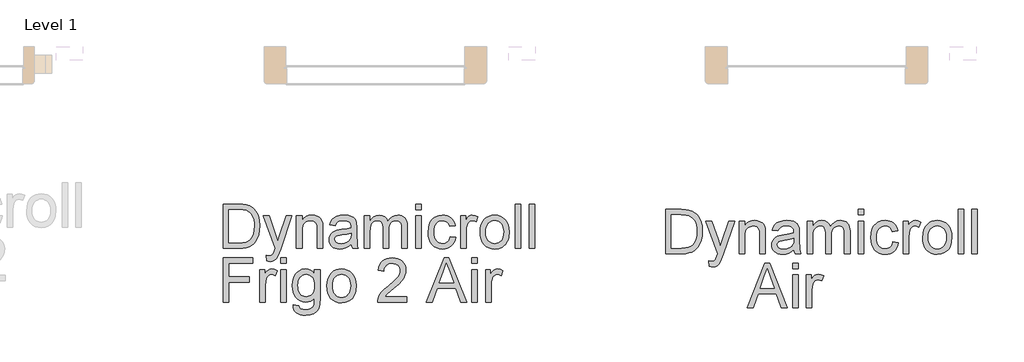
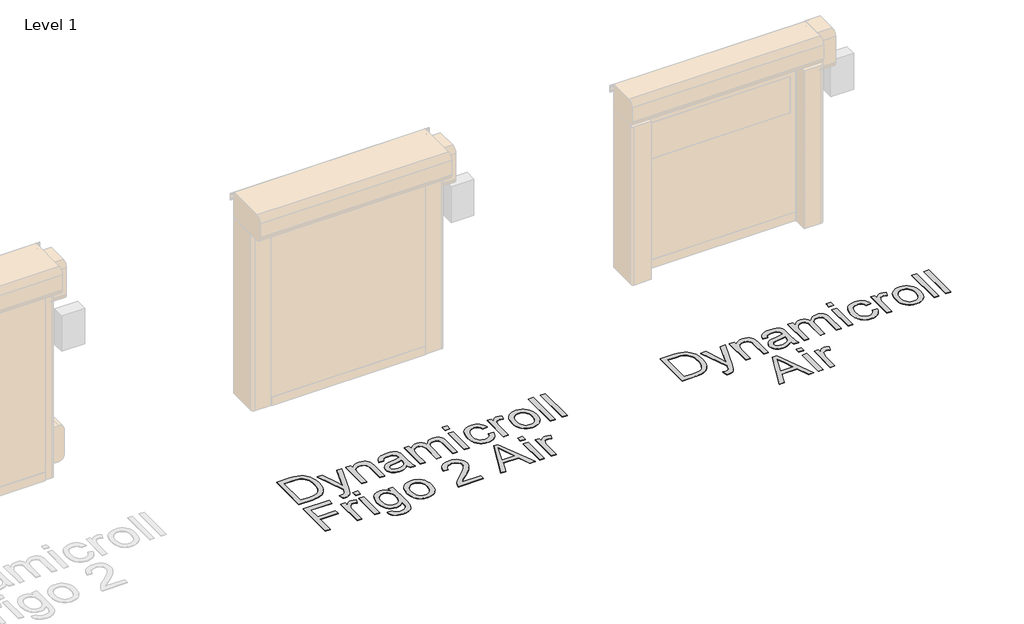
# One storey, part 5 of 17: 2 proxies.
"""IFC4 building model written with IfcOpenShell, lengths in millimetres."""

import ifcopenshell
import ifcopenshell.guid

model = None  # the IFC model being written
_history = None  # IfcOwnerHistory: only IFC2X3 demands one
_inside = {}  # id of a spatial element -> (the spatial element, [elements in it])
_under = {}  # id of a project, library or spatial element -> (it, [spatial elements below it])
_declared = {}  # id of a project -> (the project, [libraries it declares])
_typed = {}  # id of a type object -> (the type object, [elements of that type])
_made_of = {}  # id of a material, layer set ... -> (it, [elements and type objects made of it])


def new_model(schema):
    """Start an empty IFC model of exactly this schema.

    Asked for "IFC4X3", IfcOpenShell would pick the latest addendum, in which some entities
    have other attributes; the version numbers below select the first issue.
    IFC2X3 requires an IfcOwnerHistory on every rooted entity: one is made here for all.
    """
    global model, _history
    if schema == "IFC4X3":
        model = ifcopenshell.file(schema_version=(4, 3, 0, 0))
    else:
        model = ifcopenshell.file(schema=schema)
    _inside.clear()
    _under.clear()
    _declared.clear()
    _typed.clear()
    _made_of.clear()
    _history = None
    if model.schema == "IFC2X3":
        org = make("IfcOrganization", Name="unknown")
        user = make(
            "IfcPersonAndOrganization",
            ThePerson=make("IfcPerson", FamilyName="unknown"),
            TheOrganization=org,
        )
        app = make(
            "IfcApplication",
            ApplicationDeveloper=org,
            Version="unknown",
            ApplicationFullName="unknown",
            ApplicationIdentifier="unknown",
        )
        _history = make(
            "IfcOwnerHistory",
            OwningUser=user,
            OwningApplication=app,
            ChangeAction="ADDED",
            CreationDate=0,
        )
    return model


def make(cls, **values):
    """One entity of the class cls with the attributes given. An attribute that is None is left unset."""
    return model.create_entity(
        cls, **{name: value for name, value in values.items() if value is not None}
    )


def rooted(cls, **values):
    """An entity with a GlobalId (a new one), such as an element, a storey or a relation."""
    return make(cls, GlobalId=ifcopenshell.guid.new(), OwnerHistory=_history, **values)


def si_unit(unit_type, name, prefix=None):
    """IfcSIUnit, for example si_unit("LENGTHUNIT", "METRE", prefix="MILLI")."""
    return make("IfcSIUnit", UnitType=unit_type, Prefix=prefix, Name=name)


def assignment(units):
    """IfcUnitAssignment: the units of a project."""
    return None if units is None else make("IfcUnitAssignment", Units=units)


def point(xyz):
    """IfcCartesianPoint."""
    return None if xyz is None else make("IfcCartesianPoint", Coordinates=xyz)


def direction(xyz):
    """IfcDirection."""
    return None if xyz is None else make("IfcDirection", DirectionRatios=xyz)


def frame(location, z_axis=None, x_axis=None):
    """IfcAxis2Placement3D, a coordinate frame: its origin and axes. An axis left out is left unset."""
    return make(
        "IfcAxis2Placement3D",
        Location=point(location),
        Axis=direction(z_axis),
        RefDirection=direction(x_axis),
    )


def origin():
    """The frame at (0, 0, 0) with its axes left unset."""
    return frame((0.0, 0.0, 0.0))


def origin_with_axes():
    """The frame at (0, 0, 0) with the z axis (0, 0, 1) and the x axis (1, 0, 0) written out."""
    return frame((0.0, 0.0, 0.0), z_axis=(0.0, 0.0, 1.0), x_axis=(1.0, 0.0, 0.0))


def place(relative_to, where):
    """IfcLocalPlacement: puts the frame where relative to a parent placement (None: the world)."""
    return make(
        "IfcLocalPlacement", PlacementRelTo=relative_to, RelativePlacement=where
    )


def context(
    kind, dimensions, precision=None, world=None, true_north=None, identifier=None
):
    """IfcGeometricRepresentationContext, for example the 3D "Model" context."""
    return make(
        "IfcGeometricRepresentationContext",
        ContextIdentifier=identifier,
        ContextType=kind,
        CoordinateSpaceDimension=dimensions,
        Precision=precision,
        WorldCoordinateSystem=world,
        TrueNorth=true_north,
    )


def project(units=None, contexts=None):
    """IfcProject with its units and contexts."""
    return rooted(
        "IfcProject",
        Name="project",
        RepresentationContexts=contexts,
        UnitsInContext=assignment(units),
    )


def spatial(cls, under=None, at=None, **own):
    """A site, building, storey or space (cls), placed at a placement, below another one or the project."""
    s = rooted(cls, ObjectPlacement=at, **own)
    if under is not None:
        _under.setdefault(under.id(), (under, []))[1].append(s)
    return s


def polyline(points):
    """IfcPolyline through the points."""
    return make("IfcPolyline", Points=[point(p) for p in points])


def outline(outer, holes=None, kind="AREA"):
    """IfcArbitraryClosedProfileDef: a profile drawn as a closed curve; with holes, ...WithVoids."""
    if holes is None:
        return make("IfcArbitraryClosedProfileDef", ProfileType=kind, OuterCurve=outer)
    return make(
        "IfcArbitraryProfileDefWithVoids",
        ProfileType=kind,
        OuterCurve=outer,
        InnerCurves=holes,
    )


def extrude(swept, where, along, depth):
    """IfcExtrudedAreaSolid: the profile swept, set in the frame where, extruded along a direction by depth."""
    return make(
        "IfcExtrudedAreaSolid",
        SweptArea=swept,
        Position=where,
        ExtrudedDirection=direction(along),
        Depth=depth,
    )


def shape(context_of_items, identifier, shape_type, items):
    """IfcShapeRepresentation: the items that make up one representation, for example the "Body"."""
    return make(
        "IfcShapeRepresentation",
        ContextOfItems=context_of_items,
        RepresentationIdentifier=identifier,
        RepresentationType=shape_type,
        Items=items,
    )


def made_of(thing, what):
    """Note that an element or type object is made of a material, layer set ...; save() writes the relation."""
    if what is not None:
        _made_of.setdefault(what.id(), (what, []))[1].append(thing)
    return thing


def element(
    cls,
    number,
    at=None,
    inside=None,
    cuts=None,
    type_object=None,
    material=None,
    context=None,
    identifier="Body",
    shape_type=None,
    held_by="IfcProductDefinitionShape",
    body=None,
    shapes=None,
    **own,
):
    """One element of the class cls, such as IfcWall. Its Tag is "e" and its number.

    at: its placement. inside: the storey or other place that contains it. cuts: it is an
    opening in that element (IfcRelVoidsElement). A single representation is given by context,
    identifier, shape_type and body (its items); several are given by shapes. held_by: the class
    of the entity that holds the representations. save() writes the other relations.
    """
    e = rooted(cls, Tag="e%d" % number, ObjectPlacement=at, **own)
    if body is not None:
        shapes = [shape(context, identifier, shape_type, body)]
    if shapes is not None:
        e.Representation = make(held_by, Representations=shapes)
    if inside is not None:
        _inside.setdefault(inside.id(), (inside, []))[1].append(e)
    if cuts is not None:
        rooted(
            "IfcRelVoidsElement", RelatingBuildingElement=cuts, RelatedOpeningElement=e
        )
    if type_object is not None:
        _typed.setdefault(type_object.id(), (type_object, []))[1].append(e)
    return made_of(e, material)


def aggregate(whole, parts):
    """IfcRelAggregates: a whole, such as a stair, and the parts it consists of."""
    return rooted("IfcRelAggregates", RelatingObject=whole, RelatedObjects=parts)


def save(model, path):
    """Write the relations noted so far, then the file.

    IfcRelAggregates (storeys below a building ...), IfcRelContainedInSpatialStructure (elements
    in a storey), IfcRelDefinesByType, IfcRelAssociatesMaterial and IfcRelDeclares: one each for
    every whole, place, type object, material and project.
    """
    for whole, parts in _under.values():
        aggregate(whole, parts)
    for where, things in _inside.values():
        rooted(
            "IfcRelContainedInSpatialStructure",
            RelatedElements=things,
            RelatingStructure=where,
        )
    for kind, things in _typed.values():
        rooted("IfcRelDefinesByType", RelatedObjects=things, RelatingType=kind)
    for what, things in _made_of.values():
        rooted("IfcRelAssociatesMaterial", RelatedObjects=things, RelatingMaterial=what)
    for by, libraries in _declared.values():
        rooted("IfcRelDeclares", RelatingContext=by, RelatedDefinitions=libraries)
    model.write(path)


model = new_model("IFC4")

# Units and contexts
model_context = context("Model", 3, world=origin())
ifc_project = project(units=[si_unit("LENGTHUNIT", "METRE", prefix="MILLI")], contexts=[model_context])

# Site, building, storey
site = spatial("IfcSite", under=ifc_project)
building = spatial("IfcBuilding", under=site)
storey = spatial("IfcBuildingStorey", under=building, Name="Level 1", Elevation=0.0)

# Proxies
placement = place(None, origin())
element("IfcBuildingElementProxy", 1, Name="500mm", ObjectType="500mm", at=placement, inside=storey, context=model_context, shape_type="SweptSolid", body=[
    extrude(outline(polyline([(24771.8968294, 7368.7374399), (24771.8968294, 7871.0189907), (24945.1692491, 7871.0189907), (24996.94864, 7869.2102375), (25034.8098286, 7863.7839781), (25074.8476524, 7849.8351191), (25108.6314823, 7827.8541699), (25127.2478441, 7809.8892658), (25143.365674, 7789.5944424), (25156.9849721, 7766.9696997), (25168.1057382, 7742.0150377), (25182.9129885, 7686.0356608), (25187.8487386, 7622.5760166), (25184.5071438, 7568.6659759), (25174.4823595, 7521.2245269), (25159.2152567, 7480.8341495), (25140.1467066, 7448.0773235), (25118.1964142, 7422.218285), (25094.2840845, 7402.5212698), (25066.8308906, 7387.9132889), (25034.2580056, 7377.3213531), (24996.5041159, 7370.8834182), (24953.5079077, 7368.7374399), (24771.8968294, 7368.7374399)]), holes=[polyline([(24834.6820233, 7431.5226338), (24945.7823858, 7431.5226338), (24991.7369784, 7433.7912394), (25026.5937974, 7440.5970563), (25052.8973601, 7451.5415457), (25073.1921835, 7466.2261686), (25095.0045201, 7493.403451), (25111.3905973, 7528.5821668), (25121.6453079, 7571.9156002), (25125.0635448, 7623.5570352), (25123.3889153, 7660.0080096), (25118.3650268, 7691.9830863), (25109.9918793, 7719.4822655), (25098.2694728, 7742.505547), (25084.1481691, 7761.5740971), (25068.5783301, 7777.2090819), (25051.5599557, 7789.4105014), (25033.093046, 7798.1783556), (24996.9792968, 7805.7199365), (24944.0656032, 7808.2337968), (24834.6820233, 7808.2337968), (24834.6820233, 7431.5226338)])]), origin_with_axes(), (0.0, 0.0, 1.0), 5.0),
    extrude(outline(polyline([(25266.3302309, 7227.4707538), (25258.4820817, 7287.9260283), (25290.3651879, 7282.4077984), (25307.1344756, 7284.1399094), (25320.1636296, 7289.3362426), (25330.3110413, 7297.6289159), (25338.435102, 7308.6500474), (25355.6029284, 7354.8805514), (25360.5080217, 7370.0863406), (25227.0894848, 7737.6004537), (25293.3082439, 7737.6004537), (25364.0642143, 7532.8128098), (25388.712308, 7450.8977522), (25413.3604017, 7523.2478779), (25486.0784094, 7737.6004537), (25551.8066592, 7737.6004537), (25423.4158429, 7359.908272), (25390.0612086, 7277.9932144), (25372.9853527, 7251.8429359), (25353.6408911, 7233.7247477), (25331.1694326, 7223.1481403), (25304.7125858, 7219.6226045), (25286.5330838, 7221.5846418), (25266.3302309, 7227.4707538)])), origin_with_axes(), (0.0, 0.0, 1.0), 5.0),
    extrude(outline(polyline([(25603.8006478, 7368.7374399), (25603.8006478, 7737.6004537), (25666.5858417, 7737.6004537), (25666.5858417, 7686.0969744), (25688.3981783, 7712.0633119), (25714.594442, 7730.6106958), (25745.1746329, 7741.7391262), (25780.1387509, 7745.448603), (25811.0868237, 7742.4595618), (25839.4290657, 7733.4924381), (25863.0654839, 7719.6662065), (25879.8960852, 7702.0998412), (25891.3157555, 7680.8393276), (25898.7193806, 7655.9306508), (25902.0303186, 7595.2301216), (25902.0303186, 7368.7374399), (25839.2451247, 7368.7374399), (25839.2451247, 7586.7688357), (25837.4363716, 7619.2344218), (25832.0101122, 7642.319017), (25822.0006562, 7658.8583784), (25806.4423135, 7671.6882629), (25786.5000437, 7679.9196226), (25763.3388064, 7682.6634091), (25744.2740884, 7681.1229033), (25726.5659353, 7676.5013857), (25710.214347, 7668.7988564), (25695.2193236, 7658.0153155), (25682.6921753, 7642.9244894), (25673.7442122, 7622.3001051), (25668.3754343, 7596.1421624), (25666.5858417, 7564.4506613), (25666.5858417, 7368.7374399), (25603.8006478, 7368.7374399)])), origin_with_axes(), (0.0, 0.0, 1.0), 5.0),
    extrude(outline(polyline([(26223.804437, 7415.8263353), (26193.806726, 7390.1052525), (26162.9199668, 7373.2746512), (26130.4390523, 7363.9856308), (26095.6588754, 7360.8892907), (26067.7036759, 7362.7516933), (26043.1897058, 7368.3389011), (26022.1169653, 7377.6509141), (26004.4854542, 7390.6877323), (25990.56342, 7406.6216212), (25980.6191098, 7424.6248463), (25974.6525237, 7444.6974077), (25972.6636617, 7466.8393053), (25975.6680313, 7492.8669564), (25984.6811402, 7516.5033746), (25998.5840139, 7536.7368844), (26016.2576781, 7552.5558102), (26037.0276824, 7564.511975), (26060.2195765, 7573.1572019), (26114.5434845, 7582.5995064), (26178.7388926, 7592.5323203), (26223.436555, 7604.1819168), (26223.804437, 7618.1614326), (26219.4818236, 7646.1817779), (26206.5139833, 7664.514564), (26193.438844, 7672.4546838), (26177.5126193, 7678.1261979), (26137.1069135, 7682.6634091), (26099.7055773, 7679.6437111), (26073.5859557, 7670.584617), (26055.7743357, 7653.8306578), (26043.2970047, 7627.7263645), (25980.5118109, 7635.5745137), (25991.410315, 7669.9101666), (26007.6737649, 7696.8881796), (26030.8196737, 7717.5202282), (26062.3655548, 7732.8179878), (26100.9471791, 7742.2909492), (26145.2003174, 7745.448603), (26187.6447026, 7742.6588312), (26221.2905767, 7734.2895158), (26246.659106, 7721.7048859), (26264.2714565, 7706.2691705), (26275.9517099, 7687.185292), (26283.5239476, 7663.6561727), (26286.5896309, 7608.7191281), (26286.5896309, 7530.6055178), (26289.7779415, 7421.5285062), (26294.4990938, 7394.5658217), (26302.2859293, 7368.7374399), (26239.5007355, 7368.7374399), (26229.4452943, 7390.565105), (26223.804437, 7415.8263353)]), holes=[polyline([(26223.804437, 7541.396723), (26181.6206349, 7530.942743), (26122.514261, 7522.1442319), (26068.4969214, 7511.9661634), (26054.4407635, 7505.0070623), (26044.0327687, 7495.4114736), (26037.5948338, 7483.9151612), (26035.4488555, 7471.2538892), (26040.1240225, 7452.583878), (26054.1495236, 7437.2861183), (26077.2187904, 7427.077393), (26109.0252545, 7423.6744845), (26142.7477708, 7427.4299466), (26172.5462124, 7438.6963327), (26196.7037967, 7455.2970077), (26213.5037412, 7475.0553365), (26220.9533516, 7495.4114736), (26223.436555, 7523.6157599), (26223.804437, 7541.396723)])]), origin_with_axes(), (0.0, 0.0, 1.0), 5.0),
    extrude(outline(polyline([(26372.9192724, 7368.7374399), (26372.9192724, 7737.6004537), (26435.7044663, 7737.6004537), (26435.7044663, 7676.8999245), (26454.5890753, 7704.7823141), (26478.869287, 7726.6253076), (26507.7173668, 7740.7427791), (26540.3055802, 7745.448603), (26575.2237129, 7740.6508086), (26603.2134014, 7726.2574256), (26624.1213615, 7703.2188156), (26637.7943089, 7672.4853406), (26660.6796347, 7704.4067679), (26686.783928, 7727.2077874), (26716.1071887, 7740.8883991), (26748.6494168, 7745.448603), (26773.7841877, 7743.5517114), (26795.8456111, 7737.8610368), (26814.833687, 7728.3765791), (26830.7484154, 7715.0983384), (26843.3292132, 7697.8730304), (26852.3154974, 7676.547371), (26857.7072679, 7651.1213601), (26859.5045247, 7621.5949979), (26859.5045247, 7368.7374399), (26796.7193309, 7368.7374399), (26796.7193309, 7594.6169849), (26795.2631313, 7625.9329398), (26790.8945326, 7647.0401693), (26782.7091582, 7661.494866), (26769.8026315, 7672.8532226), (26753.2019565, 7680.2108625), (26733.934137, 7682.6634091), (26716.1416776, 7681.0922464), (26699.9203809, 7676.3787584), (26685.2702468, 7668.5229449), (26672.1912755, 7657.5248061), (26661.4345592, 7643.0624452), (26653.7511905, 7624.8139654), (26649.1411692, 7602.7793667), (26647.6044955, 7576.9586492), (26647.6044955, 7368.7374399), (26584.8193016, 7368.7374399), (26584.8193016, 7601.6067429), (26581.1864669, 7637.1073554), (26570.2879628, 7662.4298994), (26561.8611659, 7671.2820599), (26551.1121138, 7677.6050317), (26522.6472445, 7682.6634091), (26498.4590033, 7679.2911575), (26476.1714857, 7669.1744026), (26457.777386, 7652.5583992), (26445.2693981, 7629.6884018), (26438.0956992, 7597.9585797), (26435.7044663, 7554.7631021), (26435.7044663, 7368.7374399), (26372.9192724, 7368.7374399)])), origin_with_axes(), (0.0, 0.0, 1.0), 5.0),
    extrude(outline(polyline([(26953.6823155, 7808.2337968), (26953.6823155, 7871.0189907), (27016.4675093, 7871.0189907), (27016.4675093, 7808.2337968), (26953.6823155, 7808.2337968)])), origin_with_axes(), (0.0, 0.0, 1.0), 5.0),
    extrude(outline(polyline([(26953.6823155, 7368.7374399), (26953.6823155, 7737.6004537), (27016.4675093, 7737.6004537), (27016.4675093, 7368.7374399), (26953.6823155, 7368.7374399)])), origin_with_axes(), (0.0, 0.0, 1.0), 5.0),
    extrude(outline(polyline([(27346.089777, 7502.1559768), (27408.8749708, 7494.3078276), (27402.0461613, 7464.6818307), (27391.3699192, 7438.4664064), (27376.8462446, 7415.6615548), (27358.4751375, 7396.2672759), (27337.0306829, 7380.7894074), (27313.2869658, 7369.733787), (27287.2439862, 7363.1004148), (27258.9017441, 7360.8892907), (27223.6885394, 7363.9741345), (27192.1158336, 7373.2286659), (27164.1836267, 7388.652885), (27139.8919187, 7410.2467917), (27120.2293925, 7437.604183), (27106.1847309, 7470.3188558), (27097.7579339, 7508.3908102), (27094.9490016, 7551.8200462), (27099.746796, 7607.6921242), (27114.140179, 7656.1145918), (27124.9926979, 7677.064705), (27138.359077, 7695.2173822), (27154.2393165, 7710.5726234), (27172.6334163, 7723.1304286), (27213.6369303, 7739.8690594), (27258.0433528, 7745.448603), (27285.8989176, 7743.5325509), (27311.0950022, 7737.7843947), (27333.6316065, 7728.2041344), (27353.5087306, 7714.79177), (27370.3891492, 7697.8538698), (27383.9356372, 7677.6970022), (27394.1481947, 7654.3211671), (27401.0268216, 7627.7263645), (27338.2416278, 7619.8782153), (27326.8526143, 7647.2700955), (27309.1176365, 7666.905797), (27286.0177129, 7678.7240061), (27258.5338621, 7682.6634091), (27237.2005385, 7680.7243644), (27217.9595438, 7674.9072304), (27200.8108778, 7665.212007), (27185.7545408, 7651.6386942), (27173.4956397, 7633.8730595), (27164.7392818, 7611.6008704), (27159.485467, 7584.8221268), (27157.7341955, 7553.5368288), (27159.447146, 7521.780182), (27164.5859976, 7494.691038), (27173.1507503, 7472.2693968), (27185.1414041, 7454.5152585), (27199.8988371, 7441.0224199), (27216.7639273, 7431.384678), (27235.7366748, 7425.6020329), (27256.8170795, 7423.6744845), (27289.3286508, 7428.4876073), (27315.9847671, 7442.9269756), (27326.7644759, 7453.8484723), (27335.3752139, 7467.3604715), (27346.089777, 7502.1559768)])), origin_with_axes(), (0.0, 0.0, 1.0), 5.0),
    extrude(outline(polyline([(27463.8120154, 7368.7374399), (27463.8120154, 7737.6004537), (27518.7490601, 7737.6004537), (27518.7490601, 7683.0312911), (27539.0438835, 7714.6691427), (27557.7445516, 7733.3084971), (27576.5065333, 7742.4135765), (27596.9852977, 7745.448603), (27628.2552673, 7740.6048234), (27660.0157462, 7726.0734846), (27639.0464725, 7669.7875393), (27616.9735528, 7679.4444417), (27594.9006331, 7682.6634091), (27576.1539797, 7679.567069), (27559.4000205, 7670.2780486), (27545.8650288, 7655.5014552), (27536.7752778, 7635.9423957), (27529.1417264, 7600.8709789), (27526.5972093, 7562.6112514), (27526.5972093, 7368.7374399), (27463.8120154, 7368.7374399)])), origin_with_axes(), (0.0, 0.0, 1.0), 5.0),
    extrude(outline(polyline([(27683.5601939, 7553.1689468), (27686.9554381, 7600.9399567), (27697.1411709, 7642.1044192), (27714.1173921, 7676.6623341), (27737.8841019, 7704.6137015), (27761.81176, 7722.4789709), (27788.2226215, 7735.2398776), (27817.1166866, 7742.8964216), (27848.4939551, 7745.448603), (27883.1323442, 7742.3407665), (27914.4521311, 7733.0172572), (27942.4533159, 7717.478075), (27967.1358985, 7695.72322), (27987.2812699, 7668.488456), (28001.6708208, 7636.5095471), (28010.3045514, 7599.7864934), (28013.1824616, 7558.3192948), (28008.0934273, 7494.8903074), (28001.7321345, 7468.8549921), (27992.8263245, 7446.6057956), (27981.4871284, 7427.3877934), (27967.8256773, 7410.4460611), (27951.841971, 7395.7805987), (27933.5360096, 7383.3914061), (27892.8084071, 7366.5148195), (27848.4939551, 7360.8892907), (27813.3497282, 7363.9856308), (27781.7387014, 7373.2746512), (27753.6608745, 7388.7563518), (27729.1162476, 7410.4307327), (27709.1854741, 7437.9299118), (27694.9492073, 7470.8860072), (27686.4074473, 7509.2990189), (27683.5601939, 7553.1689468)]), holes=[polyline([(27746.3453877, 7553.2915742), (27748.1618051, 7522.8378427), (27753.6110571, 7496.4691343), (27762.6931439, 7474.1854489), (27775.4080654, 7455.9867864), (27790.8744376, 7441.8501543), (27808.2108766, 7431.75256), (27827.4173824, 7425.6940034), (27848.4939551, 7423.6744845), (27869.4632288, 7425.7054997), (27888.5930925, 7431.7985453), (27905.8835463, 7441.9536212), (27921.3345901, 7456.1707274), (27934.0495116, 7474.5494988), (27943.1315983, 7497.1895699), (27948.5808504, 7524.0909408), (27950.3972677, 7555.2536115), (27948.5693541, 7584.7416526), (27943.0856131, 7610.4205823), (27933.9460448, 7632.2904005), (27921.1506491, 7650.3511072), (27905.6421238, 7664.4877393), (27888.3631663, 7674.5853337), (27869.3137767, 7680.6438903), (27848.4939551, 7682.6634091), (27827.4173824, 7680.6515545), (27808.2108766, 7674.6159905), (27790.8744376, 7664.5567172), (27775.4080654, 7650.4737346), (27762.6931439, 7632.3287216), (27753.6110571, 7610.0833572), (27748.1618051, 7583.7376414), (27746.3453877, 7553.2915742)])]), origin_with_axes(), (0.0, 0.0, 1.0), 5.0),
    extrude(outline(polyline([(28083.8158047, 7368.7374399), (28083.8158047, 7871.0189907), (28146.6009985, 7871.0189907), (28146.6009985, 7368.7374399), (28083.8158047, 7368.7374399)])), origin_with_axes(), (0.0, 0.0, 1.0), 5.0),
    extrude(outline(polyline([(28240.7787893, 7368.7374399), (28240.7787893, 7871.0189907), (28303.5639831, 7871.0189907), (28303.5639831, 7368.7374399), (28240.7787893, 7368.7374399)])), origin_with_axes(), (0.0, 0.0, 1.0), 5.0),
    extrude(outline(polyline([(24771.8968294, 6758.8633507), (24771.8968294, 7261.1449014), (25109.3672463, 7261.1449014), (25109.3672463, 7198.3597076), (24834.6820233, 7198.3597076), (24834.6820233, 7049.2448722), (25070.1265002, 7049.2448722), (25070.1265002, 6986.4596784), (24834.6820233, 6986.4596784), (24834.6820233, 6758.8633507), (24771.8968294, 6758.8633507)])), origin_with_axes(), (0.0, 0.0, 1.0), 5.0),
    extrude(outline(polyline([(25187.8487386, 6758.8633507), (25187.8487386, 7127.7263645), (25242.7857832, 7127.7263645), (25242.7857832, 7073.1572019), (25263.0806066, 7104.7950535), (25281.7812747, 7123.4344079), (25300.5432565, 7132.5394873), (25321.0220209, 7135.5745137), (25352.2919905, 7130.7307341), (25384.0524694, 7116.1993953), (25363.0831957, 7059.9134501), (25341.0102759, 7069.5703524), (25318.9373562, 7072.7893199), (25300.1907029, 7069.6929798), (25283.4367437, 7060.4039594), (25269.901752, 7045.6273659), (25260.812001, 7026.0683065), (25253.1784496, 6990.9968896), (25250.6339325, 6952.7371621), (25250.6339325, 6758.8633507), (25187.8487386, 6758.8633507)])), origin_with_axes(), (0.0, 0.0, 1.0), 5.0),
    extrude(outline(polyline([(25423.2932155, 7198.3597076), (25423.2932155, 7261.1449014), (25486.0784094, 7261.1449014), (25486.0784094, 7198.3597076), (25423.2932155, 7198.3597076)])), origin_with_axes(), (0.0, 0.0, 1.0), 5.0),
    extrude(outline(polyline([(25423.2932155, 6758.8633507), (25423.2932155, 7127.7263645), (25486.0784094, 7127.7263645), (25486.0784094, 6758.8633507), (25423.2932155, 6758.8633507)])), origin_with_axes(), (0.0, 0.0, 1.0), 5.0),
    extrude(outline(polyline([(25564.5599017, 6727.4707538), (25627.3450955, 6719.6226045), (25634.2735398, 6700.0022315), (25647.7012326, 6686.513225), (25674.0967657, 6676.0285881), (25708.6470165, 6672.5337091), (25745.4965296, 6676.4884406), (25772.9037383, 6688.3526349), (25791.9109747, 6707.3598714), (25803.5605712, 6732.743729), (25806.9634797, 6759.7523988), (25807.8525278, 6805.9522461), (25786.9598962, 6785.3508543), (25763.6453747, 6770.6355745), (25737.9089635, 6761.8064066), (25709.7506624, 6758.8633507), (25675.3268712, 6762.2892518), (25645.0187597, 6772.566955), (25618.8263281, 6789.6964604), (25596.7495763, 6813.677768), (25579.2330283, 6842.4492057), (25566.7212084, 6873.9491015), (25559.2141164, 6908.1774555), (25556.7117525, 6945.1342676), (25561.2029785, 6995.8253408), (25574.6766565, 7042.4390553), (25596.6576058, 7081.9403845), (25610.6601142, 7097.8857698), (25626.6706452, 7111.2943021), (25644.4324478, 7121.9168947), (25663.688771, 7129.5044608), (25684.4396148, 7134.0570005), (25706.6849792, 7135.5745137), (25736.0465609, 7132.1409485), (25762.6950129, 7121.8402526), (25786.6303352, 7104.6724262), (25807.8525278, 7080.6374691), (25807.8525278, 7127.7263645), (25870.6377217, 7127.7263645), (25870.6377217, 6809.263184), (25866.3457651, 6735.7327702), (25860.9808193, 6708.3830432), (25853.4698952, 6687.3103026), (25831.2896766, 6655.1972701), (25799.0846736, 6630.5951617), (25779.3991548, 6621.4747539), (25757.5599934, 6614.9601769), (25707.4207431, 6609.7485153), (25676.6604434, 6611.5840932), (25649.004148, 6617.0908268), (25624.4518569, 6626.2687162), (25603.0035702, 6639.1177613), (25585.6786275, 6655.6532905), (25573.4963685, 6675.8906324), (25566.4567932, 6699.8297868), (25564.5599017, 6727.4707538)]), holes=[polyline([(25619.4969463, 6949.4262242), (25621.1715758, 6918.3823487), (25626.1954643, 6891.8373635), (25634.5686118, 6869.7912685), (25646.2910183, 6852.2440638), (25660.5426135, 6838.8585241), (25676.5033271, 6829.2974243), (25694.1731592, 6823.5607645), (25713.5521097, 6821.6485445), (25732.739455, 6823.5492682), (25750.3249808, 6829.2514391), (25766.3086871, 6838.7550573), (25780.6905738, 6852.0601228), (25792.5739287, 6869.4348829), (25801.0620393, 6891.1475848), (25806.1549057, 6917.1982286), (25807.8525278, 6947.5868142), (25806.1050883, 6976.7069734), (25800.8627699, 7002.0180211), (25792.1255725, 7023.5199573), (25779.8934962, 7041.212782), (25765.201209, 7055.0275173), (25749.0833791, 7064.8951854), (25731.5400065, 7070.8157863), (25712.5710911, 7072.7893199), (25693.9202403, 7070.8464431), (25676.717925, 7065.0178128), (25660.9641449, 7055.3034288), (25646.6589003, 7041.7032913), (25634.7755454, 7024.2787139), (25626.2874348, 7003.0910102), (25621.1945684, 6978.1401803), (25619.4969463, 6949.4262242)])]), origin_with_axes(), (0.0, 0.0, 1.0), 5.0),
    extrude(outline(polyline([(25949.119214, 6943.2948576), (25952.5144582, 6991.0658675), (25962.700191, 7032.2303299), (25979.6764122, 7066.7882449), (26003.4431219, 7094.7396123), (26027.37078, 7112.6048817), (26053.7816416, 7125.3657884), (26082.6757066, 7133.0223324), (26114.0529751, 7135.5745137), (26148.6913643, 7132.4666773), (26180.0111512, 7123.143168), (26208.012336, 7107.6039858), (26232.6949186, 7085.8491307), (26252.8402899, 7058.6143668), (26267.2298409, 7026.6354579), (26275.8635715, 6989.9124042), (26278.7414817, 6948.4452055), (26273.6524474, 6885.0162182), (26267.2911546, 6858.9809028), (26258.3853446, 6836.7317063), (26247.0461485, 6817.5137042), (26233.3846973, 6800.5719719), (26217.4009911, 6785.9065094), (26199.0950297, 6773.5173168), (26158.3674271, 6756.6407303), (26114.0529751, 6751.0152015), (26078.9087483, 6754.1115416), (26047.2977214, 6763.400562), (26019.2198946, 6778.8822626), (25994.6752677, 6800.5566435), (25974.7444942, 6828.0558226), (25960.5082274, 6861.011918), (25951.9664673, 6899.4249297), (25949.119214, 6943.2948576)]), holes=[polyline([(26011.9044078, 6943.4174849), (26013.7208252, 6912.9637535), (26019.1700772, 6886.5950451), (26028.252164, 6864.3113597), (26040.9670854, 6846.1126972), (26056.4334577, 6831.9760651), (26073.7698967, 6821.8784708), (26092.9764025, 6815.8199142), (26114.0529751, 6813.8003953), (26135.0222489, 6815.8314105), (26154.1521126, 6821.924456), (26171.4425664, 6832.0795319), (26186.8936102, 6846.2966382), (26199.6085316, 6864.6754095), (26208.6906184, 6887.3154807), (26214.1398705, 6914.2168516), (26215.9562878, 6945.3795222), (26214.1283741, 6974.8675634), (26208.6446332, 7000.5464931), (26199.5050648, 7022.4163113), (26186.7096692, 7040.477018), (26171.2011438, 7054.6136501), (26153.9221864, 7064.7112444), (26134.8727968, 7070.769801), (26114.0529751, 7072.7893199), (26092.9764025, 7070.7774652), (26073.7698967, 7064.7419013), (26056.4334577, 7054.682628), (26040.9670854, 7040.5996453), (26028.252164, 7022.4546323), (26019.1700772, 7000.2092679), (26013.7208252, 6973.8635521), (26011.9044078, 6943.4174849)])]), origin_with_axes(), (0.0, 0.0, 1.0), 5.0),
    extrude(outline(polyline([(26851.6563755, 6821.6485445), (26851.6563755, 6758.8633507), (26522.0341078, 6758.8633507), (26523.4136653, 6780.9669272), (26528.778611, 6802.1507988), (26544.2603117, 6835.9806139), (26566.9157112, 6868.7987536), (26599.6878656, 6903.1497349), (26645.5198308, 6941.578075), (26713.2714316, 7001.757438), (26753.9223921, 7046.1791889), (26774.2478723, 7082.2316244), (26779.3292424, 7099.8899602), (26781.0230324, 7117.3030413), (26779.425045, 7133.6852864), (26774.6310827, 7148.7416235), (26766.6411457, 7162.4720525), (26755.4552337, 7174.8765736), (26741.6941479, 7185.1504447), (26725.9786889, 7192.4889241), (26708.3088568, 7196.8920117), (26688.6846516, 7198.3597076), (26649.5205475, 7192.6268798), (26633.2149445, 7185.4608451), (26619.0936409, 7175.4283966), (26607.6701385, 7162.8667593), (26599.4579394, 7148.1131584), (26594.4570435, 7131.167594), (26592.6674509, 7112.0300661), (26529.882257, 7119.8782153), (26535.2816917, 7152.2901519), (26545.1033746, 7180.6094013), (26559.3473056, 7204.8359635), (26578.0134847, 7224.9698386), (26600.6727164, 7240.7964286), (26626.8958048, 7252.1011357), (26656.6827501, 7258.88396), (26690.0335523, 7261.1449014), (26723.6832585, 7258.6310411), (26753.6311522, 7251.0894602), (26779.8772333, 7238.5201587), (26802.4215018, 7220.9231366), (26820.5281937, 7199.6013093), (26833.4615451, 7175.8575922), (26841.221556, 7149.6919853), (26843.8082262, 7121.1044886), (26841.0184544, 7091.0761207), (26832.6491391, 7061.568919), (26817.7959035, 7031.5558796), (26795.5543712, 7000.0099985), (26760.0997439, 6962.3480793), (26705.6072234, 6913.9869253), (26633.379725, 6853.5929644), (26605.0528114, 6821.6485445), (26851.6563755, 6821.6485445)])), origin_with_axes(), (0.0, 0.0, 1.0), 5.0),
    extrude(outline(polyline([(27075.6965105, 6758.8633507), (27276.1921979, 7261.1449014), (27329.6577145, 7261.1449014), (27530.1534019, 6758.8633507), (27463.8120154, 6758.8633507), (27406.2997969, 6915.8263353), (27199.4274882, 6915.8263353), (27142.037897, 6758.8633507), (27075.6965105, 6758.8633507)]), holes=[polyline([(27222.4814266, 6978.6115291), (27383.3684858, 6978.6115291), (27338.1190004, 7102.0972522), (27302.9249562, 7198.3597076), (27271.6549866, 7112.8884574), (27222.4814266, 6978.6115291)])]), origin_with_axes(), (0.0, 0.0, 1.0), 5.0),
    extrude(outline(polyline([(27589.3824031, 7198.3597076), (27589.3824031, 7261.1449014), (27652.167597, 7261.1449014), (27652.167597, 7198.3597076), (27589.3824031, 7198.3597076)])), origin_with_axes(), (0.0, 0.0, 1.0), 5.0),
    extrude(outline(polyline([(27589.3824031, 6758.8633507), (27589.3824031, 7127.7263645), (27652.167597, 7127.7263645), (27652.167597, 6758.8633507), (27589.3824031, 6758.8633507)])), origin_with_axes(), (0.0, 0.0, 1.0), 5.0),
    extrude(outline(polyline([(27746.3453877, 6758.8633507), (27746.3453877, 7127.7263645), (27801.2824324, 7127.7263645), (27801.2824324, 7073.1572019), (27821.5772558, 7104.7950535), (27840.2779238, 7123.4344079), (27859.0399056, 7132.5394873), (27879.51867, 7135.5745137), (27910.7886396, 7130.7307341), (27942.5491185, 7116.1993953), (27921.5798448, 7059.9134501), (27899.5069251, 7069.5703524), (27877.4340054, 7072.7893199), (27858.687352, 7069.6929798), (27841.9333928, 7060.4039594), (27828.3984011, 7045.6273659), (27819.3086501, 7026.0683065), (27811.6750987, 6990.9968896), (27809.1305816, 6952.7371621), (27809.1305816, 6758.8633507), (27746.3453877, 6758.8633507)])), origin_with_axes(), (0.0, 0.0, 1.0), 5.0),
])
element("IfcBuildingElementProxy", 2, Name="500mm", ObjectType="500mm", at=placement, inside=storey, context=model_context, shape_type="SweptSolid", body=[
    extrude(outline(polyline([(29787.548359, 7308.3079034), (29787.548359, 7810.5894542), (29960.8207787, 7810.5894542), (30012.6001695, 7808.780701), (30050.4613582, 7803.3544416), (30090.499182, 7789.4055826), (30124.2830119, 7767.4246334), (30142.8993737, 7749.4597293), (30159.0172036, 7729.1649059), (30172.6365016, 7706.5401632), (30183.7572678, 7681.5855012), (30198.5645181, 7625.6061242), (30203.5002682, 7562.1464801), (30200.1586734, 7508.2364394), (30190.133889, 7460.7949904), (30174.8667862, 7420.404613), (30155.7982362, 7387.647787), (30133.8479438, 7361.7887485), (30109.9356141, 7342.0917333), (30082.4824202, 7327.4837524), (30049.9095352, 7316.8918166), (30012.1556455, 7310.4538817), (29969.1594373, 7308.3079034), (29787.548359, 7308.3079034)]), holes=[polyline([(29850.3335528, 7371.0930973), (29961.4339154, 7371.0930973), (30007.3885079, 7373.3617029), (30042.245327, 7380.1675198), (30068.5488896, 7391.1120092), (30088.843713, 7405.7966321), (30110.6560497, 7432.9739145), (30127.0421269, 7468.1526303), (30137.2968375, 7511.4860637), (30140.7150744, 7563.1274987), (30139.0404449, 7599.5784731), (30134.0165564, 7631.5535498), (30125.6434089, 7659.052729), (30113.9210024, 7682.0760105), (30099.7996987, 7701.1445606), (30084.2298597, 7716.7795454), (30067.2114853, 7728.9809649), (30048.7445756, 7737.7488191), (30012.6308264, 7745.2904), (29959.7171327, 7747.8042603), (29850.3335528, 7747.8042603), (29850.3335528, 7371.0930973)])]), origin_with_axes(), (0.0, 0.0, 1.0), 5.0),
    extrude(outline(polyline([(30281.9817605, 7167.0412173), (30274.1336113, 7227.4964918), (30306.0167175, 7221.9782619), (30322.7860051, 7223.7103729), (30335.8151591, 7228.9067061), (30345.9625708, 7237.1993794), (30354.0866316, 7248.2205109), (30371.254458, 7294.4510149), (30376.1595513, 7309.6568041), (30242.7410144, 7677.1709172), (30308.9597735, 7677.1709172), (30379.7157439, 7472.3832733), (30404.3638376, 7390.4682157), (30429.0119312, 7462.8183414), (30501.729939, 7677.1709172), (30567.4581888, 7677.1709172), (30439.0673724, 7299.4787355), (30405.7127382, 7217.5636779), (30388.6368823, 7191.4133994), (30369.2924207, 7173.2952112), (30346.8209622, 7162.7186038), (30320.3641153, 7159.193068), (30302.1846134, 7161.1551053), (30281.9817605, 7167.0412173)])), origin_with_axes(), (0.0, 0.0, 1.0), 5.0),
    extrude(outline(polyline([(30619.4521774, 7308.3079034), (30619.4521774, 7677.1709172), (30682.2373713, 7677.1709172), (30682.2373713, 7625.6674379), (30704.0497079, 7651.6337754), (30730.2459716, 7670.1811593), (30760.8261625, 7681.3095897), (30795.7902804, 7685.0190665), (30826.7383533, 7682.0300253), (30855.0805953, 7673.0629016), (30878.7170135, 7659.23667), (30895.5476148, 7641.6703047), (30906.9672851, 7620.4097911), (30914.3709102, 7595.5011143), (30917.6818482, 7534.8005851), (30917.6818482, 7308.3079034), (30854.8966543, 7308.3079034), (30854.8966543, 7526.3392992), (30853.0879012, 7558.8048853), (30847.6616418, 7581.8894805), (30837.6521858, 7598.4288419), (30822.0938431, 7611.2587264), (30802.1515733, 7619.4900861), (30778.990336, 7622.2338726), (30759.925618, 7620.6933668), (30742.2174649, 7616.0718492), (30725.8658766, 7608.3693199), (30710.8708532, 7597.585779), (30698.3437049, 7582.4949529), (30689.3957417, 7561.8705686), (30684.0269639, 7535.7126259), (30682.2373713, 7504.0211248), (30682.2373713, 7308.3079034), (30619.4521774, 7308.3079034)])), origin_with_axes(), (0.0, 0.0, 1.0), 5.0),
    extrude(outline(polyline([(31239.4559666, 7355.3967988), (31209.4582556, 7329.675716), (31178.5714964, 7312.8451147), (31146.0905819, 7303.5560943), (31111.310405, 7300.4597542), (31083.3552054, 7302.3221568), (31058.8412354, 7307.9093646), (31037.7684949, 7317.2213776), (31020.1369838, 7330.2581958), (31006.2149496, 7346.1920847), (30996.2706394, 7364.1953098), (30990.3040533, 7384.2678712), (30988.3151912, 7406.4097688), (30991.3195609, 7432.4374199), (31000.3326698, 7456.0738381), (31014.2355435, 7476.3073479), (31031.9092077, 7492.1262737), (31052.679212, 7504.0824385), (31075.8711061, 7512.7276654), (31130.195014, 7522.1699699), (31194.3904222, 7532.1027838), (31239.0880846, 7543.7523803), (31239.4559666, 7557.7318961), (31235.1333532, 7585.7522414), (31222.1655128, 7604.0850275), (31209.0903736, 7612.0251473), (31193.1641489, 7617.6966614), (31152.7584431, 7622.2338726), (31115.3571069, 7619.2141746), (31089.2374853, 7610.1550805), (31071.4258653, 7593.4011213), (31058.9485343, 7567.296828), (30996.1633405, 7575.1449772), (31007.0618446, 7609.4806301), (31023.3252945, 7636.4586431), (31046.4712033, 7657.0906917), (31078.0170844, 7672.3884513), (31116.5987086, 7681.8614127), (31160.851847, 7685.0190665), (31203.2962322, 7682.2292947), (31236.9421063, 7673.8599793), (31262.3106356, 7661.2753494), (31279.9229861, 7645.839634), (31291.6032394, 7626.7557555), (31299.1754772, 7603.2266362), (31302.2411605, 7548.2895916), (31302.2411605, 7470.1759813), (31305.4294711, 7361.0989697), (31310.1506234, 7334.1362852), (31317.9374589, 7308.3079034), (31255.1522651, 7308.3079034), (31245.0968239, 7330.1355685), (31239.4559666, 7355.3967988)]), holes=[polyline([(31239.4559666, 7480.9671865), (31197.2721645, 7470.5132064), (31138.1657906, 7461.7146954), (31084.148451, 7451.5366269), (31070.0922931, 7444.5775258), (31059.6842983, 7434.9819371), (31053.2463634, 7423.4856247), (31051.1003851, 7410.8243527), (31055.7755521, 7392.1543415), (31069.8010532, 7376.8565818), (31092.87032, 7366.6478565), (31124.6767841, 7363.244948), (31158.3993003, 7367.0004101), (31188.197742, 7378.2667962), (31212.3553263, 7394.8674712), (31229.1552708, 7414.6258), (31236.6048812, 7434.9819371), (31239.0880846, 7463.1862234), (31239.4559666, 7480.9671865)])]), origin_with_axes(), (0.0, 0.0, 1.0), 5.0),
    extrude(outline(polyline([(31388.570802, 7308.3079034), (31388.570802, 7677.1709172), (31451.3559958, 7677.1709172), (31451.3559958, 7616.470388), (31470.2406049, 7644.3527776), (31494.5208166, 7666.1957711), (31523.3688964, 7680.3132426), (31555.9571098, 7685.0190665), (31590.8752425, 7680.2212721), (31618.864931, 7665.8278891), (31639.772891, 7642.7892791), (31653.4458385, 7612.0558041), (31676.3311643, 7643.9772314), (31702.4354575, 7666.7782509), (31731.7587182, 7680.4588626), (31764.3009464, 7685.0190665), (31789.4357173, 7683.1221749), (31811.4971407, 7677.4315003), (31830.4852166, 7667.9470426), (31846.399945, 7654.6688019), (31858.9807428, 7637.4434939), (31867.967027, 7616.1178345), (31873.3587975, 7590.6918236), (31875.1560543, 7561.1654614), (31875.1560543, 7308.3079034), (31812.3708604, 7308.3079034), (31812.3708604, 7534.1874484), (31810.9146609, 7565.5034033), (31806.5460622, 7586.6106328), (31798.3606878, 7601.0653295), (31785.4541611, 7612.4236861), (31768.8534861, 7619.781326), (31749.5856666, 7622.2338726), (31731.7932072, 7620.6627099), (31715.5719105, 7615.9492219), (31700.9217764, 7608.0934084), (31687.8428051, 7597.0952696), (31677.0860888, 7582.6329087), (31669.4027201, 7564.3844289), (31664.7926988, 7542.3498302), (31663.2560251, 7516.5291127), (31663.2560251, 7308.3079034), (31600.4708312, 7308.3079034), (31600.4708312, 7541.1772064), (31596.8379965, 7576.6778189), (31585.9394924, 7602.0003629), (31577.5126955, 7610.8525234), (31566.7636434, 7617.1754952), (31538.298774, 7622.2338726), (31514.1105328, 7618.861621), (31491.8230153, 7608.7448661), (31473.4289155, 7592.1288627), (31460.9209277, 7569.2588653), (31453.7472288, 7537.5290432), (31451.3559958, 7494.3335656), (31451.3559958, 7308.3079034), (31388.570802, 7308.3079034)])), origin_with_axes(), (0.0, 0.0, 1.0), 5.0),
    extrude(outline(polyline([(31969.333845, 7747.8042603), (31969.333845, 7810.5894542), (32032.1190389, 7810.5894542), (32032.1190389, 7747.8042603), (31969.333845, 7747.8042603)])), origin_with_axes(), (0.0, 0.0, 1.0), 5.0),
    extrude(outline(polyline([(31969.333845, 7308.3079034), (31969.333845, 7677.1709172), (32032.1190389, 7677.1709172), (32032.1190389, 7308.3079034), (31969.333845, 7308.3079034)])), origin_with_axes(), (0.0, 0.0, 1.0), 5.0),
    extrude(outline(polyline([(32361.7413066, 7441.7264403), (32424.5265004, 7433.8782911), (32417.6976909, 7404.2522942), (32407.0214488, 7378.0368699), (32392.4977742, 7355.2320183), (32374.1266671, 7335.8377394), (32352.6822124, 7320.3598709), (32328.9384953, 7309.3042505), (32302.8955158, 7302.6708783), (32274.5532737, 7300.4597542), (32239.340069, 7303.544598), (32207.7673632, 7312.7991294), (32179.8351563, 7328.2233485), (32155.5434483, 7349.8172552), (32135.8809221, 7377.1746465), (32121.8362605, 7409.8893193), (32113.4094635, 7447.9612737), (32110.6005312, 7491.3905097), (32115.3983255, 7547.2625877), (32129.7917086, 7595.6850553), (32140.6442275, 7616.6351685), (32154.0106066, 7634.7878457), (32169.8908461, 7650.1430869), (32188.2849458, 7662.7008921), (32229.2884599, 7679.4395229), (32273.6948824, 7685.0190665), (32301.5504472, 7683.1030144), (32326.7465318, 7677.3548582), (32349.2831361, 7667.7745979), (32369.1602601, 7654.3622335), (32386.0406788, 7637.4243333), (32399.5871668, 7617.2674657), (32409.7997243, 7593.8916306), (32416.6783512, 7567.296828), (32353.8931573, 7559.4486788), (32342.5041439, 7586.840559), (32324.7691661, 7606.4762605), (32301.6692424, 7618.2944696), (32274.1853917, 7622.2338726), (32252.8520681, 7620.2948279), (32233.6110733, 7614.4776939), (32216.4624074, 7604.7824705), (32201.4060703, 7591.2091577), (32189.1471693, 7573.443523), (32180.3908114, 7551.1713339), (32175.1369966, 7524.3925903), (32173.385725, 7493.1072923), (32175.0986756, 7461.3506455), (32180.2375272, 7434.2615015), (32188.8022799, 7411.8398603), (32200.7929337, 7394.085722), (32215.5503666, 7380.5928834), (32232.4154568, 7370.9551415), (32251.3882043, 7365.1724964), (32272.4686091, 7363.244948), (32304.9801804, 7368.0580708), (32331.6362966, 7382.4974391), (32342.4160055, 7393.4189358), (32351.0267435, 7406.9309349), (32361.7413066, 7441.7264403)])), origin_with_axes(), (0.0, 0.0, 1.0), 5.0),
    extrude(outline(polyline([(32479.463545, 7308.3079034), (32479.463545, 7677.1709172), (32534.4005896, 7677.1709172), (32534.4005896, 7622.6017546), (32554.695413, 7654.2396062), (32573.3960811, 7672.8789606), (32592.1580629, 7681.98404), (32612.6368273, 7685.0190665), (32643.9067969, 7680.1752869), (32675.6672758, 7665.6439481), (32654.6980021, 7609.3580028), (32632.6250824, 7619.0149052), (32610.5521626, 7622.2338726), (32591.8055093, 7619.1375325), (32575.0515501, 7609.8485121), (32561.5165584, 7595.0719186), (32552.4268074, 7575.5128592), (32544.793256, 7540.4414424), (32542.2487389, 7502.1817149), (32542.2487389, 7308.3079034), (32479.463545, 7308.3079034)])), origin_with_axes(), (0.0, 0.0, 1.0), 5.0),
    extrude(outline(polyline([(32699.2117235, 7492.7394103), (32702.6069677, 7540.5104202), (32712.7927005, 7581.6748827), (32729.7689217, 7616.2327976), (32753.5356314, 7644.184165), (32777.4632895, 7662.0494344), (32803.8741511, 7674.8103411), (32832.7682161, 7682.4668851), (32864.1454846, 7685.0190665), (32898.7838738, 7681.91123), (32930.1036607, 7672.5877207), (32958.1048455, 7657.0485385), (32982.7874281, 7635.2936835), (33002.9327994, 7608.0589195), (33017.3223504, 7576.0800106), (33025.956081, 7539.3569569), (33028.8339912, 7497.8897583), (33023.7449569, 7434.4607709), (33017.3836641, 7408.4254556), (33008.4778541, 7386.1762591), (32997.138658, 7366.9582569), (32983.4772068, 7350.0165246), (32967.4935006, 7335.3510622), (32949.1875392, 7322.9618696), (32908.4599367, 7306.085283), (32864.1454846, 7300.4597542), (32829.0012578, 7303.5560943), (32797.3902309, 7312.8451147), (32769.3124041, 7328.3268153), (32744.7677772, 7350.0011962), (32724.8370037, 7377.5003753), (32710.6007369, 7410.4564707), (32702.0589768, 7448.8694824), (32699.2117235, 7492.7394103)]), holes=[polyline([(32761.9969173, 7492.8620377), (32763.8133347, 7462.4083062), (32769.2625867, 7436.0395978), (32778.3446735, 7413.7559124), (32791.0595949, 7395.5572499), (32806.5259672, 7381.4206178), (32823.8624062, 7371.3230235), (32843.068912, 7365.2644669), (32864.1454846, 7363.244948), (32885.1147584, 7365.2759632), (32904.2446221, 7371.3690087), (32921.5350759, 7381.5240847), (32936.9861197, 7395.7411909), (32949.7010412, 7414.1199623), (32958.7831279, 7436.7600334), (32964.23238, 7463.6614043), (32966.0487973, 7494.824075), (32964.2208836, 7524.3121161), (32958.7371427, 7549.9910458), (32949.5975743, 7571.860864), (32936.8021787, 7589.9215707), (32921.2936533, 7604.0582028), (32904.0146959, 7614.1557971), (32884.9653063, 7620.2143538), (32864.1454846, 7622.2338726), (32843.068912, 7620.222018), (32823.8624062, 7614.186454), (32806.5259672, 7604.1271807), (32791.0595949, 7590.044198), (32778.3446735, 7571.8991851), (32769.2625867, 7549.6538207), (32763.8133347, 7523.3081049), (32761.9969173, 7492.8620377)])]), origin_with_axes(), (0.0, 0.0, 1.0), 5.0),
    extrude(outline(polyline([(33099.4673342, 7308.3079034), (33099.4673342, 7810.5894542), (33162.2525281, 7810.5894542), (33162.2525281, 7308.3079034), (33099.4673342, 7308.3079034)])), origin_with_axes(), (0.0, 0.0, 1.0), 5.0),
    extrude(outline(polyline([(33256.4303188, 7308.3079034), (33256.4303188, 7810.5894542), (33319.2155127, 7810.5894542), (33319.2155127, 7308.3079034), (33256.4303188, 7308.3079034)])), origin_with_axes(), (0.0, 0.0, 1.0), 5.0),
    extrude(outline(polyline([(30710.0737756, 6698.4338142), (30910.5694629, 7200.7153649), (30964.0349796, 7200.7153649), (31164.5306669, 6698.4338142), (31098.1892805, 6698.4338142), (31040.6770619, 6855.3967988), (30833.8047533, 6855.3967988), (30776.415162, 6698.4338142), (30710.0737756, 6698.4338142)]), holes=[polyline([(30856.8586916, 6918.1819926), (31017.7457509, 6918.1819926), (30972.4962655, 7041.6677157), (30937.3022212, 7137.9301711), (30906.0322517, 7052.4589209), (30856.8586916, 6918.1819926)])]), origin_with_axes(), (0.0, 0.0, 1.0), 5.0),
    extrude(outline(polyline([(31223.7596682, 7137.9301711), (31223.7596682, 7200.7153649), (31286.544862, 7200.7153649), (31286.544862, 7137.9301711), (31223.7596682, 7137.9301711)])), origin_with_axes(), (0.0, 0.0, 1.0), 5.0),
    extrude(outline(polyline([(31223.7596682, 6698.4338142), (31223.7596682, 7067.296828), (31286.544862, 7067.296828), (31286.544862, 6698.4338142), (31223.7596682, 6698.4338142)])), origin_with_axes(), (0.0, 0.0, 1.0), 5.0),
    extrude(outline(polyline([(31380.7226528, 6698.4338142), (31380.7226528, 7067.296828), (31435.6596974, 7067.296828), (31435.6596974, 7012.7276654), (31455.9545208, 7044.365517), (31474.6551889, 7063.0048714), (31493.4171706, 7072.1099508), (31513.895935, 7075.1449772), (31545.1659046, 7070.3011976), (31576.9263835, 7055.7698588), (31555.9571098, 6999.4839136), (31533.8841901, 7009.1408159), (31511.8112704, 7012.3597834), (31493.064617, 7009.2634433), (31476.3106578, 6999.9744229), (31462.7756661, 6985.1978294), (31453.6859151, 6965.63877), (31446.0523637, 6930.5673531), (31443.5078466, 6892.3076256), (31443.5078466, 6698.4338142), (31380.7226528, 6698.4338142)])), origin_with_axes(), (0.0, 0.0, 1.0), 5.0),
])

save(model, "model.ifc")
